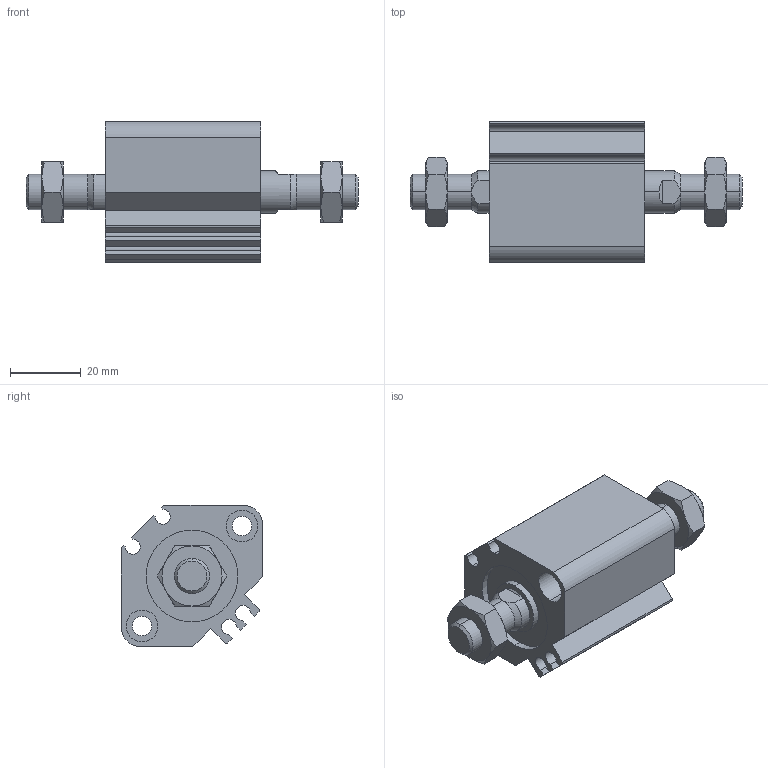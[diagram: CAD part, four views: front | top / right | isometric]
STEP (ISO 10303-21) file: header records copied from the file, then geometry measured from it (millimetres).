
FILE_DESCRIPTION (( 'STEP AP203' ), '1' );
FILE_NAME ('CCMB25-5M-P.STEP', '2020-08-10T11:24:31', ( '' ), ( '' ), 'SwSTEP 2.0', 'SolidWorks 2019', '' );
FILE_SCHEMA (( 'CONFIG_CONTROL_DESIGN' ));
Length unit declared in the file: millimetre
Products named in the file (1): CCMB25-5M-P
Bounding box: 94 x 40 x 40 mm (x, y, z)
Volume: 58908.5 mm3; surface area: 23047.3 mm2
Topology: 4 solids, 4 shells, 166 faces, 384 edges, 240 vertices
Faces by surface type: plane 66, cylinder 56, cone 44
Entity records: 5403 total; most frequent: CARTESIAN_POINT 1543, DIRECTION 806, ORIENTED_EDGE 768, EDGE_CURVE 384, AXIS2_PLACEMENT_3D 319, VERTEX_POINT 240, EDGE_LOOP 190, LINE 168
